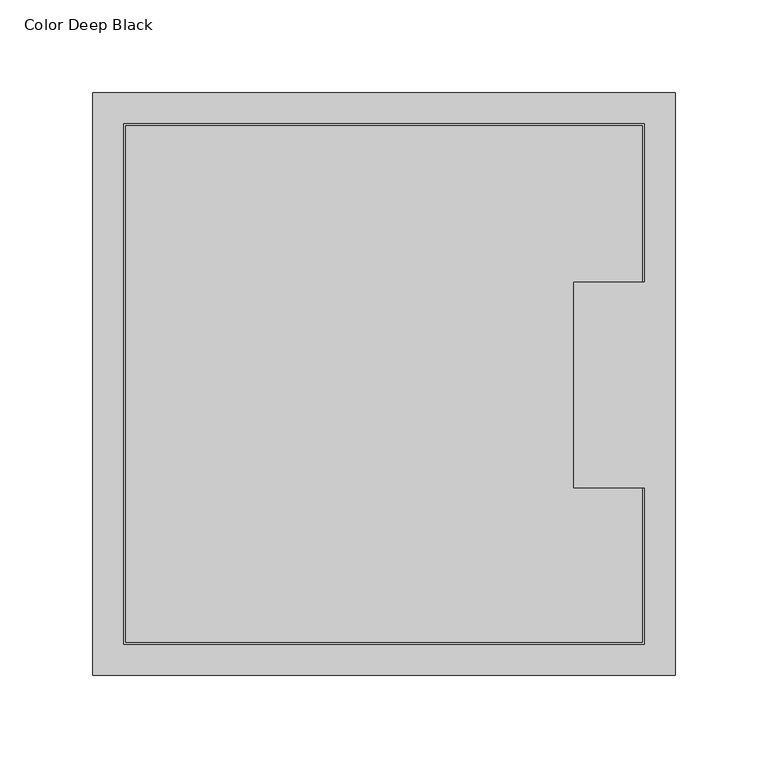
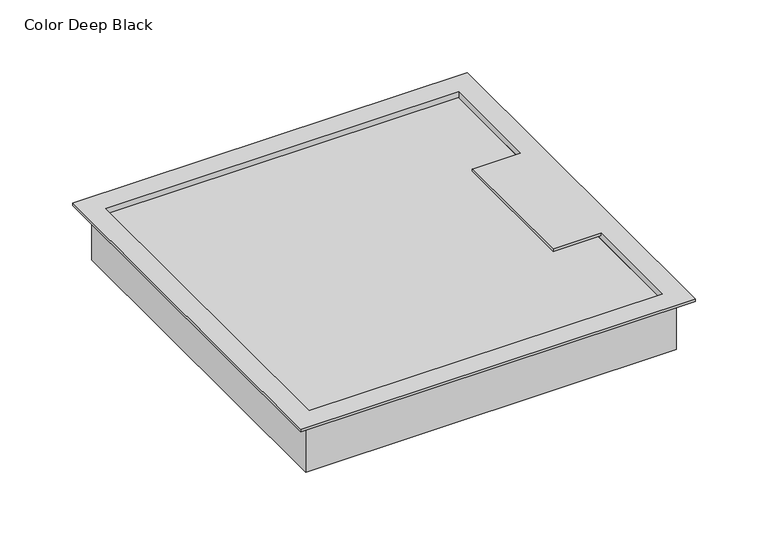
"""IFC4 building model written with IfcOpenShell, lengths in millimetres: proxy geometry, Electrical_Installation_Hager_VE-EE_Cover-KDQ08 : Color Deep Black."""

from ifc_helpers import new_model, si_unit, frame, origin, place, context, project, spatial, polyline, outline, extrude, faceted_brep, source, transform, mapped, element, save


def color_deep_black_f01a6ed9(model_context):
    return source(origin(), model_context, "Body", "SolidModel", [
        faceted_brep([(156.5, 156.5, 2.0), (-156.5, 156.5, 2.0), (-156.5, -156.5, 2.0), (156.5, -156.5, 2.0), (140.0, 140.0, 2.0), (140.0, 55.0, 2.0), (101.75, 55.0, 2.0), (101.75, -56.0, 2.0), (140.0, -56.0, 2.0), (140.0, -140.0, 2.0), (-140.0, -140.0, 2.0), (-140.0, 140.0, 2.0), (156.5, 156.5, 0.0), (156.5, -156.5, 0.0), (-156.5, -156.5, 0.0), (-156.5, 156.5, 0.0), (147.0, 147.0, 0.0), (-147.0, 147.0, 0.0), (-147.0, -147.0, 0.0), (147.0, -147.0, 0.0), (140.0, -56.0, 0.0), (101.75, -56.0, 0.0), (101.75, 55.0, 0.0), (140.0, 55.0, 0.0), (-140.0, 140.0, -43.0), (140.0, 140.0, -43.0), (-140.0, -140.0, -43.0), (140.0, -140.0, -43.0), (147.0, 147.0, -43.0), (147.0, -147.0, -43.0), (-147.0, -147.0, -43.0), (-147.0, 147.0, -43.0)], [[[0, 1, 2, 3], [4, 5, 6, 7, 8, 9, 10, 11]], [[12, 13, 14, 15], [16, 17, 18, 19]], [[20, 21, 22, 23]], [[4, 11, 24, 25]], [[24, 11, 10, 26]], [[26, 10, 9, 27]], [[5, 4, 25, 27, 9, 8, 20, 23]], [[1, 0, 12, 15]], [[2, 1, 15, 14]], [[3, 2, 14, 13]], [[0, 3, 13, 12]], [[28, 29, 30, 31], [25, 24, 26, 27]], [[28, 31, 17, 16]], [[31, 30, 18, 17]], [[30, 29, 19, 18]], [[29, 28, 16, 19]], [[6, 5, 23, 22]], [[7, 6, 22, 21]], [[8, 7, 21, 20]]]),
        extrude(outline(polyline([(-140.0, -140.0), (-140.0, 140.0), (140.0, 140.0), (140.0, -140.0), (-140.0, -140.0)])), frame((0.0, 0.0, -8.0), z_axis=(0.0, 0.0, 1.0), x_axis=(1.0, 0.0, 0.0)), (0.0, 0.0, 1.0), 5.0),
        extrude(outline(polyline([(-139.0, 139.0), (139.0, 139.0), (139.0, -56.0), (139.0, -139.0), (-139.0, -139.0), (-139.0, 139.0)])), frame((0.0, 0.0, -3.0), z_axis=(0.0, 0.0, 1.0), x_axis=(1.0, 0.0, 0.0)), (0.0, 0.0, 1.0), 1.0),
        faceted_brep([(140.0, -16.5, -26.9566947), (140.0, -16.5, -43.0191947), (140.0, -15.6503681, -43.0191947), (140.0, -7.7, -37.5191947), (140.0, 10.7, -37.5191947), (140.0, 18.673771, -43.0191947), (140.0, 19.5, -43.0191947), (140.0, 19.5, -26.9566947), (-140.0, -16.5, -26.9566947), (-140.0, 19.5, -26.9566947), (-140.0, 19.5, -43.0191947), (-140.0, 18.673771, -43.0191947), (-140.0, 10.7, -37.5191947), (-140.0, -7.7, -37.5191947), (-140.0, -15.6503681, -43.0191947), (-140.0, -16.5, -43.0191947), (-17.5156143, -16.5, -43.0191947), (-17.5156143, -16.5, -40.9566947), (20.1621798, -16.5, -40.9566947), (20.1621798, -16.5, -43.0191947), (-17.5156143, 70.9484245, -43.0191947), (20.1621798, 70.9484245, -43.0191947), (20.1621798, 19.5, -43.0191947), (20.1621798, 18.673771, -43.0191947), (20.1621798, -15.6503681, -43.0191947), (20.1621798, -98.7802725, -43.0191947), (-17.5156143, -98.7802725, -43.0191947), (-17.5156143, -15.6503681, -43.0191947), (-17.5156143, 18.673771, -43.0191947), (-17.5156143, 19.5, -43.0191947), (20.1621798, -12.66898, -40.9566947), (-17.5156143, -12.66898, -40.9566947), (-17.5156143, 15.6836068, -40.9566947), (20.1621798, 15.6836068, -40.9566947), (20.1621798, 19.5, -40.9566947), (-17.5156143, 19.5, -40.9566947), (20.1621798, 99.0, -34.9566947), (20.1621798, 124.0, -34.9566947), (20.1621798, 130.5, -26.9566947), (20.1621798, 140.0, -26.9566947), (20.1621798, 140.0, -17.7566947), (20.1621798, 94.8628499, -17.7566947), (20.1621798, 94.8628499, -40.9566947), (20.1621798, 97.7802725, -43.0), (20.1621798, -96.0, -40.9566947), (20.1621798, -96.0, -32.9566947), (20.1621798, -96.0, -26.9566947), (20.1621798, -96.0, -24.7566947), (20.1621798, -140.0, -24.7566947), (20.1621798, -140.0, -26.9566947), (20.1621798, -130.5, -26.9566947), (20.1621798, -124.0, -34.9566947), (20.1621798, -100.0, -34.9566947), (-17.5156143, 99.0, -34.9566947), (-17.5156143, 97.7802725, -43.0), (-17.5156143, 94.8628499, -40.9566947), (-17.5156143, 94.8628499, -17.7566947), (-17.5156143, 140.0, -17.7566947), (-17.5156143, 140.0, -26.9566947), (-17.5156143, 130.5, -26.9566947), (-17.5156143, 124.0, -34.9566947), (-17.5156143, -100.0, -34.9566947), (-17.5156143, -124.0, -34.9566947), (-17.5156143, -130.5, -26.9566947), (-17.5156143, -140.0, -26.9566947), (-17.5156143, -140.0, -24.7566947), (-17.5156143, -96.0, -24.7566947), (-17.5156143, -96.0, -26.9566947), (-17.5156143, -96.0, -32.9566947), (-17.5156143, -96.0, -40.9566947)], [[[0, 1, 2, 3, 4, 5, 6, 7]], [[8, 9, 10, 11, 12, 13, 14, 15]], [[1, 0, 8, 15, 16, 17, 18, 19]], [[20, 21, 22, 6, 5, 23, 24, 2, 1, 19, 25, 26, 16, 15, 14, 27, 28, 11, 10, 29]], [[3, 2, 24, 30, 31, 27, 14, 13]], [[4, 3, 13, 12]], [[5, 4, 12, 11, 28, 32, 33, 23]], [[7, 6, 22, 34, 35, 29, 10, 9]], [[0, 7, 9, 8]], [[24, 23, 33, 30]], [[36, 37, 38, 39, 40, 41, 42, 34, 22, 21, 43]], [[44, 45, 46, 47, 48, 49, 50, 51, 52, 25, 19, 18]], [[28, 27, 31, 32]], [[53, 54, 20, 29, 35, 55, 56, 57, 58, 59, 60]], [[26, 61, 62, 63, 64, 65, 66, 67, 68, 69, 17, 16]], [[37, 36, 53, 60]], [[38, 37, 60, 59]], [[39, 38, 59, 58]], [[40, 39, 58, 57]], [[41, 40, 57, 56]], [[42, 41, 56, 55]], [[30, 33, 32, 31]], [[42, 55, 35, 34]], [[69, 44, 18, 17]], [[45, 44, 69, 68]], [[46, 45, 68, 67]], [[47, 46, 67, 66]], [[48, 47, 66, 65]], [[49, 48, 65, 64]], [[50, 49, 64, 63]], [[51, 50, 63, 62]], [[52, 51, 62, 61]], [[25, 52, 61, 26]], [[43, 21, 20, 54]], [[36, 43, 54, 53]]]),
    ])


if __name__ == "__main__":
    model = new_model("IFC4")
    model_context = context("Model", 3, world=origin())
    ifc_project = project(units=[si_unit("LENGTHUNIT", "METRE", prefix="MILLI")], contexts=[model_context])
    site = spatial("IfcSite", under=ifc_project)
    building = spatial("IfcBuilding", under=site)
    placement = place(None, origin())
    color_deep_black_shape = color_deep_black_f01a6ed9(model_context)
    element("IfcBuildingElementProxy", 1, Name="Electrical_Installation_Hager_VE-EE_Cover-KDQ08 : Color Deep Black", ObjectType="Electrical_Installation_Hager_VE-EE_Cover-KDQ08 : Color Deep Black", at=placement, inside=building, context=model_context, shape_type="MappedRepresentation", body=[
        mapped(color_deep_black_shape, transform((0.0, 0.0, 0.0), x_axis=(1.0, 0.0, 0.0), y_axis=(0.0, 1.0, 0.0), z_axis=(0.0, 0.0, 1.0))),
    ])
    save(model, "model.ifc")
